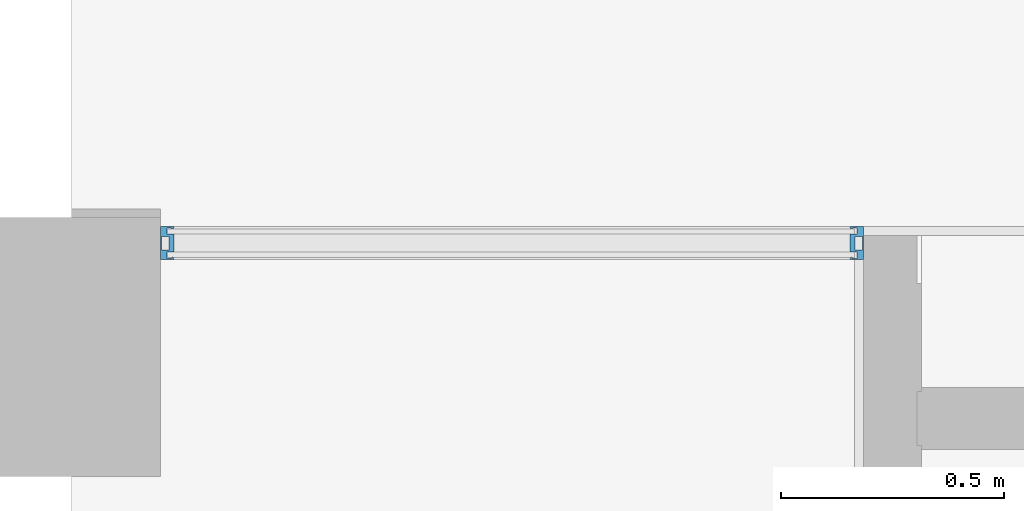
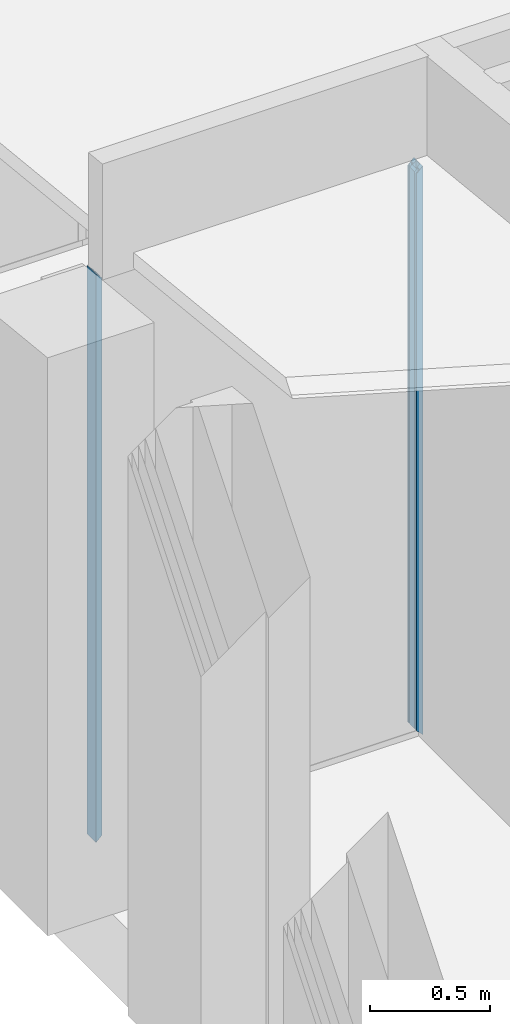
# One storey, part 10 of 43: 2 members, 1 element without a shape of its own.
"""IFC2X3 building model written with IfcOpenShell, lengths in millimetres."""

import ifcopenshell
import ifcopenshell.guid

model = None  # the IFC model being written
_history = None  # IfcOwnerHistory: only IFC2X3 demands one
_inside = {}  # id of a spatial element -> (the spatial element, [elements in it])
_under = {}  # id of a project, library or spatial element -> (it, [spatial elements below it])
_declared = {}  # id of a project -> (the project, [libraries it declares])
_typed = {}  # id of a type object -> (the type object, [elements of that type])
_made_of = {}  # id of a material, layer set ... -> (it, [elements and type objects made of it])


def new_model(schema):
    """Start an empty IFC model of exactly this schema.

    Asked for "IFC4X3", IfcOpenShell would pick the latest addendum, in which some entities
    have other attributes; the version numbers below select the first issue.
    IFC2X3 requires an IfcOwnerHistory on every rooted entity: one is made here for all.
    """
    global model, _history
    if schema == "IFC4X3":
        model = ifcopenshell.file(schema_version=(4, 3, 0, 0))
    else:
        model = ifcopenshell.file(schema=schema)
    _inside.clear()
    _under.clear()
    _declared.clear()
    _typed.clear()
    _made_of.clear()
    _history = None
    if model.schema == "IFC2X3":
        org = make("IfcOrganization", Name="unknown")
        user = make(
            "IfcPersonAndOrganization",
            ThePerson=make("IfcPerson", FamilyName="unknown"),
            TheOrganization=org,
        )
        app = make(
            "IfcApplication",
            ApplicationDeveloper=org,
            Version="unknown",
            ApplicationFullName="unknown",
            ApplicationIdentifier="unknown",
        )
        _history = make(
            "IfcOwnerHistory",
            OwningUser=user,
            OwningApplication=app,
            ChangeAction="ADDED",
            CreationDate=0,
        )
    return model


def make(cls, **values):
    """One entity of the class cls with the attributes given. An attribute that is None is left unset."""
    return model.create_entity(
        cls, **{name: value for name, value in values.items() if value is not None}
    )


def entity(cls, *values):
    """Any entity or typed value of the class cls, its attributes in the order of the schema. None: left unset."""
    e = model.create_entity(cls)
    for i, value in enumerate(values):
        if value is not None:
            e[i] = value
    return e


def rooted(cls, **values):
    """An entity with a GlobalId (a new one), such as an element, a storey or a relation."""
    return make(cls, GlobalId=ifcopenshell.guid.new(), OwnerHistory=_history, **values)


def si_unit(unit_type, name, prefix=None):
    """IfcSIUnit, for example si_unit("LENGTHUNIT", "METRE", prefix="MILLI")."""
    return make("IfcSIUnit", UnitType=unit_type, Prefix=prefix, Name=name)


def converted_unit(unit_type, name, factor, base, dimensions=None, offset=None):
    """IfcConversionBasedUnit, such as the inch: factor (a typed value) times the base unit."""
    return make(
        "IfcConversionBasedUnit"
        if offset is None
        else "IfcConversionBasedUnitWithOffset",
        ConversionOffset=offset,
        Dimensions=None
        if dimensions is None
        else entity("IfcDimensionalExponents", *dimensions),
        UnitType=unit_type,
        Name=name,
        ConversionFactor=make(
            "IfcMeasureWithUnit", ValueComponent=factor, UnitComponent=base
        ),
    )


def derived_unit(unit_type, elements):
    """IfcDerivedUnit: a product of units, each with its exponent."""
    return make(
        "IfcDerivedUnit",
        Elements=[
            make("IfcDerivedUnitElement", Unit=unit, Exponent=power)
            for unit, power in elements
        ],
        UnitType=unit_type,
    )


def money_unit(currency):
    """IfcMonetaryUnit."""
    return make("IfcMonetaryUnit", Currency=currency)


def assignment(units):
    """IfcUnitAssignment: the units of a project."""
    return None if units is None else make("IfcUnitAssignment", Units=units)


def point(xyz):
    """IfcCartesianPoint."""
    return None if xyz is None else make("IfcCartesianPoint", Coordinates=xyz)


def direction(xyz):
    """IfcDirection."""
    return None if xyz is None else make("IfcDirection", DirectionRatios=xyz)


def frame(location, z_axis=None, x_axis=None):
    """IfcAxis2Placement3D, a coordinate frame: its origin and axes. An axis left out is left unset."""
    return make(
        "IfcAxis2Placement3D",
        Location=point(location),
        Axis=direction(z_axis),
        RefDirection=direction(x_axis),
    )


def origin_with_axes():
    """The frame at (0, 0, 0) with the z axis (0, 0, 1) and the x axis (1, 0, 0) written out."""
    return frame((0.0, 0.0, 0.0), z_axis=(0.0, 0.0, 1.0), x_axis=(1.0, 0.0, 0.0))


def place(relative_to, where):
    """IfcLocalPlacement: puts the frame where relative to a parent placement (None: the world)."""
    return make(
        "IfcLocalPlacement", PlacementRelTo=relative_to, RelativePlacement=where
    )


def context(
    kind, dimensions, precision=None, world=None, true_north=None, identifier=None
):
    """IfcGeometricRepresentationContext, for example the 3D "Model" context."""
    return make(
        "IfcGeometricRepresentationContext",
        ContextIdentifier=identifier,
        ContextType=kind,
        CoordinateSpaceDimension=dimensions,
        Precision=precision,
        WorldCoordinateSystem=world,
        TrueNorth=true_north,
    )


def subcontext(parent, identifier, kind, view, scale=None):
    """IfcGeometricRepresentationSubContext, for example "Body" below "Model"."""
    return make(
        "IfcGeometricRepresentationSubContext",
        ContextIdentifier=identifier,
        ContextType=kind,
        ParentContext=parent,
        TargetScale=scale,
        TargetView=view,
    )


def project(units=None, contexts=None):
    """IfcProject with its units and contexts."""
    return rooted(
        "IfcProject",
        Name="project",
        RepresentationContexts=contexts,
        UnitsInContext=assignment(units),
    )


def spatial(cls, under=None, at=None, **own):
    """A site, building, storey or space (cls), placed at a placement, below another one or the project."""
    s = rooted(cls, ObjectPlacement=at, **own)
    if under is not None:
        _under.setdefault(under.id(), (under, []))[1].append(s)
    return s


def faces_of(points, faces, orient=None, outer=None):
    """IfcFace entities. A face is a list of loops; a loop is a list of indices into points, from 0.

    orient and outer hold one flag for each loop. By default every Orientation is true, the
    first loop of a face is its IfcFaceOuterBound and the others are IfcFaceBound.
    """
    made = []
    for i, loops in enumerate(faces):
        bounds = []
        for j, loop in enumerate(loops):
            is_outer = j == 0 if outer is None else outer[i][j]
            bounds.append(
                make(
                    "IfcFaceOuterBound" if is_outer else "IfcFaceBound",
                    Bound=make("IfcPolyLoop", Polygon=[points[k] for k in loop]),
                    Orientation=True if orient is None else orient[i][j],
                )
            )
        made.append(make("IfcFace", Bounds=bounds))
    return made


def faceted_brep(points, faces, orient=None, outer=None, voids=None):
    """IfcFacetedBrep: a solid bounded by flat faces; with voids (closed shells), ...WithVoids."""
    shared = [point(p) for p in points]
    hull = make("IfcClosedShell", CfsFaces=faces_of(shared, faces, orient, outer))
    if voids is None:
        return make("IfcFacetedBrep", Outer=hull)
    return make(
        "IfcFacetedBrepWithVoids",
        Outer=hull,
        Voids=[
            make(cls, CfsFaces=faces_of(shared, fs, o, b)) for cls, fs, o, b in voids
        ],
    )


def shape(context_of_items, identifier, shape_type, items):
    """IfcShapeRepresentation: the items that make up one representation, for example the "Body"."""
    return make(
        "IfcShapeRepresentation",
        ContextOfItems=context_of_items,
        RepresentationIdentifier=identifier,
        RepresentationType=shape_type,
        Items=items,
    )


def material(Name=None, Category=None):
    """IfcMaterial."""
    return make("IfcMaterial", Name=Name, Category=Category)


def material_list(materials):
    """IfcMaterialList."""
    return make("IfcMaterialList", Materials=materials)


def made_of(thing, what):
    """Note that an element or type object is made of a material, layer set ...; save() writes the relation."""
    if what is not None:
        _made_of.setdefault(what.id(), (what, []))[1].append(thing)
    return thing


def type_object(cls, material=None, **own):
    """A type object (cls), such as IfcWallType, which elements share."""
    return made_of(rooted(cls, **own), material)


def element(
    cls,
    number,
    at=None,
    inside=None,
    cuts=None,
    type_object=None,
    material=None,
    context=None,
    identifier="Body",
    shape_type=None,
    held_by="IfcProductDefinitionShape",
    body=None,
    shapes=None,
    **own,
):
    """One element of the class cls, such as IfcWall. Its Tag is "e" and its number.

    at: its placement. inside: the storey or other place that contains it. cuts: it is an
    opening in that element (IfcRelVoidsElement). A single representation is given by context,
    identifier, shape_type and body (its items); several are given by shapes. held_by: the class
    of the entity that holds the representations. save() writes the other relations.
    """
    e = rooted(cls, Tag="e%d" % number, ObjectPlacement=at, **own)
    if body is not None:
        shapes = [shape(context, identifier, shape_type, body)]
    if shapes is not None:
        e.Representation = make(held_by, Representations=shapes)
    if inside is not None:
        _inside.setdefault(inside.id(), (inside, []))[1].append(e)
    if cuts is not None:
        rooted(
            "IfcRelVoidsElement", RelatingBuildingElement=cuts, RelatedOpeningElement=e
        )
    if type_object is not None:
        _typed.setdefault(type_object.id(), (type_object, []))[1].append(e)
    return made_of(e, material)


def aggregate(whole, parts):
    """IfcRelAggregates: a whole, such as a stair, and the parts it consists of."""
    return rooted("IfcRelAggregates", RelatingObject=whole, RelatedObjects=parts)


def save(model, path):
    """Write the relations noted so far, then the file.

    IfcRelAggregates (storeys below a building ...), IfcRelContainedInSpatialStructure (elements
    in a storey), IfcRelDefinesByType, IfcRelAssociatesMaterial and IfcRelDeclares: one each for
    every whole, place, type object, material and project.
    """
    for whole, parts in _under.values():
        aggregate(whole, parts)
    for where, things in _inside.values():
        rooted(
            "IfcRelContainedInSpatialStructure",
            RelatedElements=things,
            RelatingStructure=where,
        )
    for kind, things in _typed.values():
        rooted("IfcRelDefinesByType", RelatedObjects=things, RelatingType=kind)
    for what, things in _made_of.values():
        rooted("IfcRelAssociatesMaterial", RelatedObjects=things, RelatingMaterial=what)
    for by, libraries in _declared.values():
        rooted("IfcRelDeclares", RelatingContext=by, RelatedDefinitions=libraries)
    model.write(path)


model = new_model("IFC2X3")

# Units and contexts
model_context = context("Model", 3, precision=0.01, world=origin_with_axes(), true_north=direction((0.0, 1.0)))
body_context = subcontext(model_context, "Body", "Model", "MODEL_VIEW")
ifc_project = project(units=[si_unit("LENGTHUNIT", "METRE", prefix="MILLI"), si_unit("AREAUNIT", "SQUARE_METRE"), si_unit("VOLUMEUNIT", "CUBIC_METRE"), converted_unit("PLANEANGLEUNIT", "DEGREE", entity("IfcPlaneAngleMeasure", 0.0174532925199), si_unit("PLANEANGLEUNIT", "RADIAN"), dimensions=[0, 0, 0, 0, 0, 0, 0]), si_unit("SOLIDANGLEUNIT", "STERADIAN"), money_unit("EUR"), converted_unit("TIMEUNIT", "Year", entity("IfcTimeMeasure", 31556926.0), si_unit("TIMEUNIT", "SECOND"), dimensions=[0, 0, 1, 0, 0, 0, 0]), si_unit("MASSUNIT", "GRAM", prefix="KILO"), si_unit("THERMODYNAMICTEMPERATUREUNIT", "DEGREE_CELSIUS"), si_unit("LUMINOUSINTENSITYUNIT", "LUMEN"), si_unit("ENERGYUNIT", "JOULE", prefix="MEGA"), derived_unit("THERMALCONDUCTANCEUNIT", [(si_unit("POWERUNIT", "WATT"), 1), (si_unit("LENGTHUNIT", "METRE"), -1), (si_unit("THERMODYNAMICTEMPERATUREUNIT", "KELVIN"), -1)]), derived_unit("SPECIFICHEATCAPACITYUNIT", [(si_unit("ENERGYUNIT", "JOULE"), 1), (si_unit("MASSUNIT", "GRAM", prefix="KILO"), -1), (si_unit("THERMODYNAMICTEMPERATUREUNIT", "KELVIN"), -1)]), derived_unit("MASSDENSITYUNIT", [(si_unit("MASSUNIT", "GRAM", prefix="KILO"), 1), (si_unit("VOLUMEUNIT", "CUBIC_METRE"), -1)])], contexts=[model_context])

# Site, building, storey
site_placement = place(None, origin_with_axes())
site = spatial("IfcSite", under=ifc_project, at=site_placement, Name="L.Koidula tn 11b", CompositionType="ELEMENT")
building_placement = place(site_placement, origin_with_axes())
building = spatial("IfcBuilding", under=site, at=building_placement, Name="Rakvere Riigigümnaasium", CompositionType="ELEMENT")
storey_placement = place(building_placement, frame((0.0, 0.0, 6665.0), z_axis=(0.0, 0.0, 1.0), x_axis=(1.0, 0.0, 0.0)))
storey = spatial("IfcBuildingStorey", under=building, at=storey_placement, Name="3.korrus +6,66", CompositionType="ELEMENT", Elevation=6665.0)

# Curtain wall, members
curtain_wall_type = type_object("IfcCurtainWallType", Name="Curtain Wall Type", PredefinedType="NOTDEFINED")
curtain_wall_placement = place(storey_placement, frame((36287.4860125, 24388.4555472, 0.0), z_axis=(0.0, 0.0, 1.0), x_axis=(1.0, 0.0, 0.0)))
curtain_wall = element("IfcCurtainWall", 1, at=curtain_wall_placement, inside=storey, type_object=curtain_wall_type, Name="SKLF-25")
ifc_material_1 = material(Name="Klaasvill")
ifc_material_2 = material(Name="Teras RAL7012")
ifc_material_list = material_list([ifc_material_1, ifc_material_2])
member_type = type_object("IfcMemberType", Name="Boundary Frame 30 x 42", PredefinedType="MULLION")
member_1_placement = place(curtain_wall_placement, frame((787.5, 0.0, 0.0), z_axis=(0.0, 0.0, 1.0), x_axis=(1.0, 0.0, 0.0)))
member_1 = element("IfcMember", 2, at=member_1_placement, type_object=member_type, material=ifc_material_list, Name="SKLF-19-raam", ObjectType="MULLION", context=body_context, shape_type="Brep", body=[
    faceted_brep([(-13.8499999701, 15.000000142, 13.8499999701), (-7.49999990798, 15.000000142, 7.49999990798), (-7.49999990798, 15.000000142, 2890.50000903), (-13.8499999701, 15.000000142, 2884.15000897), (-13.8499999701, 29.0161444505, 13.8499999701), (-7.49999990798, 29.0161444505, 7.49999990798), (-7.49999990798, 29.0161444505, 2890.50000903), (-13.8499999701, 29.0161444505, 2884.15000897)], [[[0, 1, 2, 3]], [[1, 0, 4, 5]], [[1, 5, 6, 2]], [[2, 6, 7, 3]], [[4, 0, 3, 7]], [[5, 4, 7, 6]]]),
    faceted_brep([(-25.004489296, 27.0307503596, 25.004489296), (-24.987414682, 29.0161444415, 24.987414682), (-24.987414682, 29.0161444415, 2873.01259426), (-25.004489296, 27.0307503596, 2872.99551964), (-25.742237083, 26.2930025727, 25.742237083), (-26.7500193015, 26.0229681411, 26.7500193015), (-27.75780152, 26.2930025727, 27.75780152), (-28.4955493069, 27.0307503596, 28.4955493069), (-28.7655837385, 28.0385325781, 28.7655837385), (-28.5126239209, 29.0161444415, 28.5126239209), (-28.5126239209, 29.0161444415, 2869.48738502), (-28.7655837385, 28.0385325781, 2869.2344252), (-28.4955493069, 27.0307503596, 2869.50445963), (-27.75780152, 26.2930025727, 2870.24220742), (-26.7500193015, 26.0229681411, 2871.24998964), (-25.742237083, 26.2930025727, 2872.25777186)], [[[0, 1, 2, 3]], [[1, 0, 4, 5, 6, 7, 8, 9]], [[1, 9, 10, 2]], [[2, 10, 11, 12, 13, 14, 15, 3]], [[4, 0, 3, 15]], [[5, 4, 15, 14]], [[6, 5, 14, 13]], [[7, 6, 13, 12]], [[8, 7, 12, 11]], [[9, 8, 11, 10]]]),
    faceted_brep([(-7.49999990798, -39.0161445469, 7.49999990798), (-7.49999990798, -24.9999997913, 7.49999990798), (-7.49999990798, -24.9999997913, 2890.50000903), (-7.49999990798, -39.0161445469, 2890.50000903), (-13.8499999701, -39.0161445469, 13.8499999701), (-13.8499999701, -24.9999997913, 13.8499999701), (-13.8499999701, -24.9999997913, 2884.15000897), (-13.8499999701, -39.0161445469, 2884.15000897)], [[[0, 1, 2, 3]], [[1, 0, 4, 5]], [[1, 5, 6, 2]], [[2, 6, 7, 3]], [[4, 0, 3, 7]], [[5, 4, 7, 6]]]),
    faceted_brep([(-24.987414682, -39.0161444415, 24.987414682), (-25.004489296, -37.0307503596, 25.004489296), (-25.004489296, -37.0307503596, 2872.99551964), (-24.987414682, -39.0161444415, 2873.01259426), (-28.5126239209, -39.0161444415, 28.5126239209), (-28.7655837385, -38.0385325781, 28.7655837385), (-28.4955493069, -37.0307503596, 28.4955493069), (-27.75780152, -36.2930025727, 27.75780152), (-26.7500193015, -36.0229681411, 26.7500193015), (-25.742237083, -36.2930025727, 25.742237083), (-25.742237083, -36.2930025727, 2872.25777186), (-26.7500193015, -36.0229681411, 2871.24998964), (-27.75780152, -36.2930025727, 2870.24220742), (-28.4955493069, -37.0307503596, 2869.50445963), (-28.7655837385, -38.0385325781, 2869.2344252), (-28.5126239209, -39.0161444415, 2869.48738502)], [[[0, 1, 2, 3]], [[1, 0, 4, 5, 6, 7, 8, 9]], [[1, 9, 10, 2]], [[2, 10, 11, 12, 13, 14, 15, 3]], [[4, 0, 3, 15]], [[5, 4, 15, 14]], [[6, 5, 14, 13]], [[7, 6, 13, 12]], [[8, 7, 12, 11]], [[9, 8, 11, 10]]]),
    faceted_brep([(-29.5999996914, -22.0000000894, 29.5999996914), (0.0, -22.0000000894, 0.0), (0.0, -22.0000000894, 2898.00000894), (-29.5999996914, -22.0000000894, 2868.40000925), (-29.5999996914, 12.0000000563, 29.5999996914), (0.0, 12.0000000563, 0.0), (-1.9999999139, 10.0000001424, 1.9999999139), (-18.7999996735, 10.0000001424, 18.7999996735), (-18.7999996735, -20.0000001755, 18.7999996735), (-1.9999999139, -20.0000001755, 1.9999999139), (0.0, 12.0000000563, 2898.00000894), (-29.5999996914, 12.0000000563, 2868.40000925), (-1.9999999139, 10.0000001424, 2896.00000903), (-1.9999999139, -20.0000001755, 2896.00000903), (-18.7999996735, -20.0000001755, 2879.20000927), (-18.7999996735, 10.0000001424, 2879.20000927)], [[[0, 1, 2, 3]], [[1, 0, 4, 5], [6, 7, 8, 9]], [[1, 5, 10, 2]], [[2, 10, 11, 3], [12, 13, 14, 15]], [[4, 0, 3, 11]], [[5, 4, 11, 10]], [[7, 6, 12, 15]], [[8, 7, 15, 14]], [[9, 8, 14, 13]], [[6, 9, 13, 12]]]),
    faceted_brep([(-29.5999996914, 12.0000000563, 29.5999996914), (0.0, 12.0, 0.0), (0.0, 12.0, 2898.00000894), (-29.5999996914, 12.0000000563, 2868.40000925), (-30.0000193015, 12.0, 30.0000193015), (-30.0000193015, 15.0, 30.0000193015), (-13.8499999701, 15.000000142, 13.8499999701), (-7.49999999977, 15.0, 7.49999999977), (-7.49999999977, 29.0161444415, 7.49999999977), (-13.8499999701, 29.0161444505, 13.8499999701), (-24.987414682, 29.0161444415, 24.987414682), (-28.5126239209, 29.0161444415, 28.5126239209), (-30.0000193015, 29.0161444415, 30.0000193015), (-30.0000193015, 32.0, 30.0000193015), (0.0, 32.0, 0.0), (0.0, 32.0, 2898.00000894), (-30.0000193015, 32.0, 2867.99998964), (-30.0000193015, 29.0161444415, 2867.99998964), (-28.5126239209, 29.0161444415, 2869.48738502), (-24.987414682, 29.0161444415, 2873.01259426), (-13.8499999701, 29.0161444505, 2884.15000897), (-7.49999999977, 29.0161444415, 2890.50000894), (-7.49999999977, 15.0, 2890.50000894), (-13.8499999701, 15.000000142, 2884.15000897), (-30.0000193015, 15.0, 2867.99998964), (-30.0000193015, 12.0, 2867.99998964)], [[[0, 1, 2, 3]], [[1, 0, 4, 5, 6, 7, 8, 9, 10, 11, 12, 13, 14]], [[1, 14, 15, 2]], [[2, 15, 16, 17, 18, 19, 20, 21, 22, 23, 24, 25, 3]], [[4, 0, 3, 25]], [[5, 4, 25, 24]], [[6, 5, 24, 23]], [[7, 6, 23, 22]], [[8, 7, 22, 21]], [[9, 8, 21, 20]], [[10, 9, 20, 19]], [[11, 10, 19, 18]], [[12, 11, 18, 17]], [[13, 12, 17, 16]], [[14, 13, 16, 15]]]),
    faceted_brep([(0.0, -42.0, 0.0), (0.0, -22.0, 0.0), (0.0, -22.0, 2898.00000894), (0.0, -42.0, 2898.00000894), (-30.0000193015, -42.0, 30.0000193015), (-30.0000193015, -39.0161444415, 30.0000193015), (-28.5126239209, -39.0161444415, 28.5126239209), (-24.987414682, -39.0161444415, 24.987414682), (-13.8499999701, -39.0161445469, 13.8499999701), (-7.49999999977, -39.0161444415, 7.49999999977), (-7.49999999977, -25.0, 7.49999999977), (-13.8499999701, -24.9999997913, 13.8499999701), (-30.0000193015, -25.0, 30.0000193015), (-30.0000193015, -22.0, 30.0000193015), (-29.5999996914, -22.0000000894, 29.5999996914), (-29.5999996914, -22.0000000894, 2868.40000925), (-30.0000193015, -22.0, 2867.99998964), (-30.0000193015, -25.0, 2867.99998964), (-13.8499999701, -24.9999997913, 2884.15000897), (-7.49999999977, -25.0, 2890.50000894), (-7.49999999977, -39.0161444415, 2890.50000894), (-13.8499999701, -39.0161445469, 2884.15000897), (-24.987414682, -39.0161444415, 2873.01259426), (-28.5126239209, -39.0161444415, 2869.48738502), (-30.0000193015, -39.0161444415, 2867.99998964), (-30.0000193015, -42.0, 2867.99998964)], [[[0, 1, 2, 3]], [[1, 0, 4, 5, 6, 7, 8, 9, 10, 11, 12, 13, 14]], [[1, 14, 15, 2]], [[2, 15, 16, 17, 18, 19, 20, 21, 22, 23, 24, 25, 3]], [[4, 0, 3, 25]], [[5, 4, 25, 24]], [[6, 5, 24, 23]], [[7, 6, 23, 22]], [[8, 7, 22, 21]], [[9, 8, 21, 20]], [[10, 9, 20, 19]], [[11, 10, 19, 18]], [[12, 11, 18, 17]], [[13, 12, 17, 16]], [[14, 13, 16, 15]]]),
])
member_2_placement = place(curtain_wall_placement, frame((-787.5, 0.0, 0.0), z_axis=(0.0, 0.0, 1.0), x_axis=(1.0, 0.0, 0.0)))
member_2 = element("IfcMember", 3, at=member_2_placement, type_object=member_type, material=ifc_material_list, Name="SKLF-17-raam", ObjectType="MULLION", context=body_context, shape_type="Brep", body=[
    faceted_brep([(13.8499999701, 15.000000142, 13.8499999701), (13.8499999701, 15.000000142, 2884.15000897), (7.49999990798, 15.000000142, 2890.50000903), (7.49999990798, 15.000000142, 7.49999990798), (13.8499999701, 29.0161444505, 13.8499999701), (13.8499999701, 29.0161444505, 2884.15000897), (7.49999990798, 29.0161444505, 2890.50000903), (7.49999990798, 29.0161444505, 7.49999990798)], [[[0, 1, 2, 3]], [[4, 5, 1, 0]], [[2, 1, 5, 6]], [[3, 2, 6, 7]], [[3, 7, 4, 0]], [[7, 6, 5, 4]]]),
    faceted_brep([(25.004489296, 27.0307503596, 25.004489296), (25.004489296, 27.0307503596, 2872.99551964), (24.987414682, 29.0161444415, 2873.01259426), (24.987414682, 29.0161444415, 24.987414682), (25.742237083, 26.2930025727, 25.742237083), (25.742237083, 26.2930025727, 2872.25777186), (26.7500193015, 26.0229681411, 2871.24998964), (27.75780152, 26.2930025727, 2870.24220742), (28.4955493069, 27.0307503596, 2869.50445963), (28.7655837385, 28.0385325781, 2869.2344252), (28.5126239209, 29.0161444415, 2869.48738502), (28.5126239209, 29.0161444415, 28.5126239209), (28.7655837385, 28.0385325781, 28.7655837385), (28.4955493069, 27.0307503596, 28.4955493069), (27.75780152, 26.2930025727, 27.75780152), (26.7500193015, 26.0229681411, 26.7500193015)], [[[0, 1, 2, 3]], [[4, 5, 1, 0]], [[2, 1, 5, 6, 7, 8, 9, 10]], [[3, 2, 10, 11]], [[3, 11, 12, 13, 14, 15, 4, 0]], [[15, 6, 5, 4]], [[14, 7, 6, 15]], [[13, 8, 7, 14]], [[12, 9, 8, 13]], [[11, 10, 9, 12]]]),
    faceted_brep([(7.49999990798, -39.0161445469, 7.49999990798), (7.49999990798, -39.0161445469, 2890.50000903), (7.49999990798, -24.9999997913, 2890.50000903), (7.49999990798, -24.9999997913, 7.49999990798), (13.8499999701, -39.0161445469, 13.8499999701), (13.8499999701, -39.0161445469, 2884.15000897), (13.8499999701, -24.9999997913, 2884.15000897), (13.8499999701, -24.9999997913, 13.8499999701)], [[[0, 1, 2, 3]], [[4, 5, 1, 0]], [[2, 1, 5, 6]], [[3, 2, 6, 7]], [[3, 7, 4, 0]], [[7, 6, 5, 4]]]),
    faceted_brep([(24.987414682, -39.0161444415, 24.987414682), (24.987414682, -39.0161444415, 2873.01259426), (25.004489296, -37.0307503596, 2872.99551964), (25.004489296, -37.0307503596, 25.004489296), (28.5126239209, -39.0161444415, 28.5126239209), (28.5126239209, -39.0161444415, 2869.48738502), (28.7655837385, -38.0385325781, 2869.2344252), (28.4955493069, -37.0307503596, 2869.50445963), (27.75780152, -36.2930025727, 2870.24220742), (26.7500193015, -36.0229681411, 2871.24998964), (25.742237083, -36.2930025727, 2872.25777186), (25.742237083, -36.2930025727, 25.742237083), (26.7500193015, -36.0229681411, 26.7500193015), (27.75780152, -36.2930025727, 27.75780152), (28.4955493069, -37.0307503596, 28.4955493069), (28.7655837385, -38.0385325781, 28.7655837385)], [[[0, 1, 2, 3]], [[4, 5, 1, 0]], [[2, 1, 5, 6, 7, 8, 9, 10]], [[3, 2, 10, 11]], [[3, 11, 12, 13, 14, 15, 4, 0]], [[15, 6, 5, 4]], [[14, 7, 6, 15]], [[13, 8, 7, 14]], [[12, 9, 8, 13]], [[11, 10, 9, 12]]]),
    faceted_brep([(29.5999996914, -22.0000000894, 29.5999996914), (29.5999996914, -22.0000000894, 2868.40000925), (0.0, -22.0000000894, 2898.00000894), (0.0, -22.0000000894, 0.0), (29.5999996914, 12.0000000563, 29.5999996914), (29.5999996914, 12.0000000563, 2868.40000925), (0.0, 12.0000000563, 2898.00000894), (1.9999999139, 10.0000001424, 2896.00000903), (18.7999996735, 10.0000001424, 2879.20000927), (18.7999996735, -20.0000001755, 2879.20000927), (1.9999999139, -20.0000001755, 2896.00000903), (0.0, 12.0000000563, 0.0), (1.9999999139, 10.0000001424, 1.9999999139), (1.9999999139, -20.0000001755, 1.9999999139), (18.7999996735, -20.0000001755, 18.7999996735), (18.7999996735, 10.0000001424, 18.7999996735)], [[[0, 1, 2, 3]], [[4, 5, 1, 0]], [[2, 1, 5, 6], [7, 8, 9, 10]], [[3, 2, 6, 11]], [[3, 11, 4, 0], [12, 13, 14, 15]], [[11, 6, 5, 4]], [[15, 8, 7, 12]], [[14, 9, 8, 15]], [[13, 10, 9, 14]], [[12, 7, 10, 13]]]),
    faceted_brep([(29.5999996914, 12.0000000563, 29.5999996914), (29.5999996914, 12.0000000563, 2868.40000925), (0.0, 12.0, 2898.00000894), (0.0, 12.0, 0.0), (30.0000193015, 12.0, 30.0000193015), (30.0000193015, 12.0, 2867.99998964), (30.0000193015, 15.0, 2867.99998964), (13.8499999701, 15.000000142, 2884.15000897), (7.49999999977, 15.0, 2890.50000894), (7.49999999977, 29.0161444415, 2890.50000894), (13.8499999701, 29.0161444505, 2884.15000897), (24.987414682, 29.0161444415, 2873.01259426), (28.5126239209, 29.0161444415, 2869.48738502), (30.0000193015, 29.0161444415, 2867.99998964), (30.0000193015, 32.0, 2867.99998964), (0.0, 32.0, 2898.00000894), (0.0, 32.0, 0.0), (30.0000193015, 32.0, 30.0000193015), (30.0000193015, 29.0161444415, 30.0000193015), (28.5126239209, 29.0161444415, 28.5126239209), (24.987414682, 29.0161444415, 24.987414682), (13.8499999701, 29.0161444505, 13.8499999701), (7.49999999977, 29.0161444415, 7.49999999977), (7.49999999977, 15.0, 7.49999999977), (13.8499999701, 15.000000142, 13.8499999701), (30.0000193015, 15.0, 30.0000193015)], [[[0, 1, 2, 3]], [[4, 5, 1, 0]], [[2, 1, 5, 6, 7, 8, 9, 10, 11, 12, 13, 14, 15]], [[3, 2, 15, 16]], [[3, 16, 17, 18, 19, 20, 21, 22, 23, 24, 25, 4, 0]], [[25, 6, 5, 4]], [[24, 7, 6, 25]], [[23, 8, 7, 24]], [[22, 9, 8, 23]], [[21, 10, 9, 22]], [[20, 11, 10, 21]], [[19, 12, 11, 20]], [[18, 13, 12, 19]], [[17, 14, 13, 18]], [[16, 15, 14, 17]]]),
    faceted_brep([(0.0, -42.0, 0.0), (0.0, -42.0, 2898.00000894), (0.0, -22.0, 2898.00000894), (0.0, -22.0, 0.0), (30.0000193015, -42.0, 30.0000193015), (30.0000193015, -42.0, 2867.99998964), (30.0000193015, -39.0161444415, 2867.99998964), (28.5126239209, -39.0161444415, 2869.48738502), (24.987414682, -39.0161444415, 2873.01259426), (13.8499999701, -39.0161445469, 2884.15000897), (7.49999999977, -39.0161444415, 2890.50000894), (7.49999999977, -25.0, 2890.50000894), (13.8499999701, -24.9999997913, 2884.15000897), (30.0000193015, -25.0, 2867.99998964), (30.0000193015, -22.0, 2867.99998964), (29.5999996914, -22.0000000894, 2868.40000925), (29.5999996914, -22.0000000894, 29.5999996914), (30.0000193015, -22.0, 30.0000193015), (30.0000193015, -25.0, 30.0000193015), (13.8499999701, -24.9999997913, 13.8499999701), (7.49999999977, -25.0, 7.49999999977), (7.49999999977, -39.0161444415, 7.49999999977), (13.8499999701, -39.0161445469, 13.8499999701), (24.987414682, -39.0161444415, 24.987414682), (28.5126239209, -39.0161444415, 28.5126239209), (30.0000193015, -39.0161444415, 30.0000193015)], [[[0, 1, 2, 3]], [[4, 5, 1, 0]], [[2, 1, 5, 6, 7, 8, 9, 10, 11, 12, 13, 14, 15]], [[3, 2, 15, 16]], [[3, 16, 17, 18, 19, 20, 21, 22, 23, 24, 25, 4, 0]], [[25, 6, 5, 4]], [[24, 7, 6, 25]], [[23, 8, 7, 24]], [[22, 9, 8, 23]], [[21, 10, 9, 22]], [[20, 11, 10, 21]], [[19, 12, 11, 20]], [[18, 13, 12, 19]], [[17, 14, 13, 18]], [[16, 15, 14, 17]]]),
])
aggregate(curtain_wall, [member_1, member_2])

save(model, "model.ifc")
